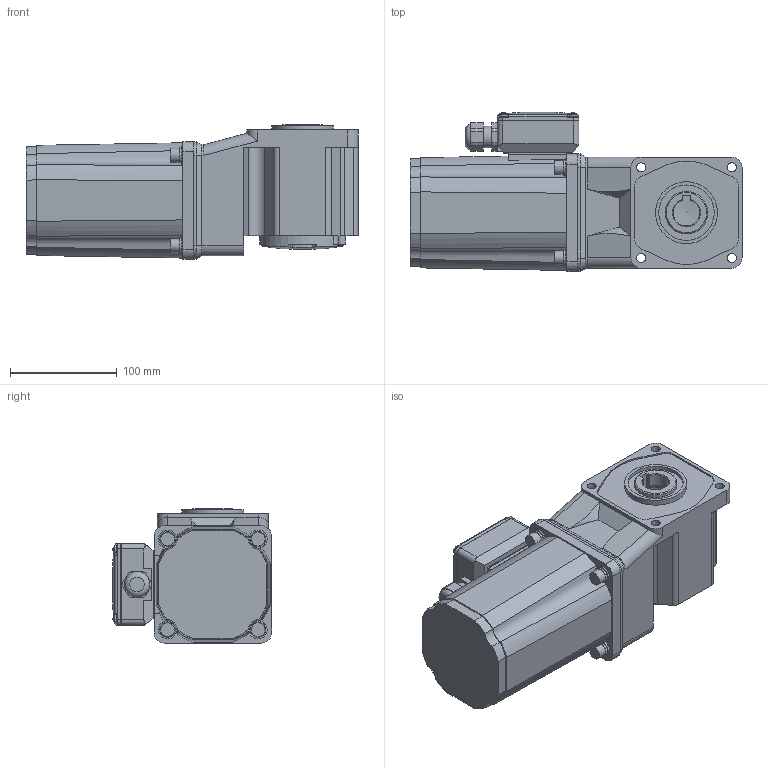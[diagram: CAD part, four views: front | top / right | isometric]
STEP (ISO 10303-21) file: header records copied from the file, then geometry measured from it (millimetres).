
FILE_DESCRIPTION(/* description */ ('STEP AP203'),/* implementation_level */ '2;1');
FILE_NAME(/* name */ '7IK200VES3T2-50RHS',/* time_stamp */ '2026-01-27T15:49:56+01:00',/* author */ ('License CC BY-ND 4.0'),/* organization */ ('CADENAS'),/* preprocessor_version */ 'ST-DEVELOPER v20',/* originating_system */ 'PARTsolutions',/* authorisation */ ' ');
FILE_SCHEMA (('CONFIG_CONTROL_DESIGN'));
Length unit declared in the file: millimetre
Products named in the file (4): 7IK200VES3T2-50RHS; 200HStphem; Motor 200Ttphem14; Terminal3
Assembly tree (3 placements, depth 2):
  7IK200VES3T2-50RHS
    200HStphem
    Motor 200Ttphem14
    Terminal3
Bounding box: 311 x 149 x 125.8 mm (x, y, z)
Volume: 3155197.5 mm3; surface area: 226078.6 mm2
Topology: 3 solids, 3 shells, 399 faces, 1038 edges, 684 vertices
Faces by surface type: plane 176, cylinder 167, bspline 26, cone 13, torus 12, sphere 5
Full cylindrical faces by diameter (mm): 5.5 x2, 6.647 x4, 7.6 x4, 8 x8, 8.5 x8, 13 x4, 13.5 x1, 14.5 x4, 20 x1, 39.8 x2, 52 x1, 58 x1, 72 x1, 78.5 x1, 98 x2
Entity records: 12157 total; most frequent: CARTESIAN_POINT 2456, DIRECTION 2063, ORIENTED_EDGE 1888, EDGE_CURVE 944, AXIS2_PLACEMENT_3D 784, VERTEX_POINT 665, FACE_BOUND 521, EDGE_LOOP 513
